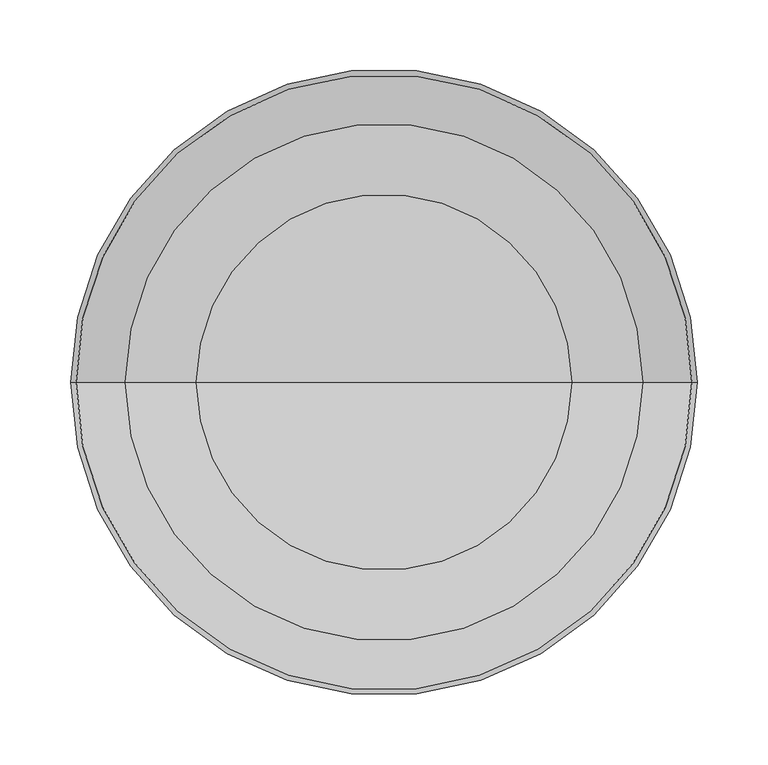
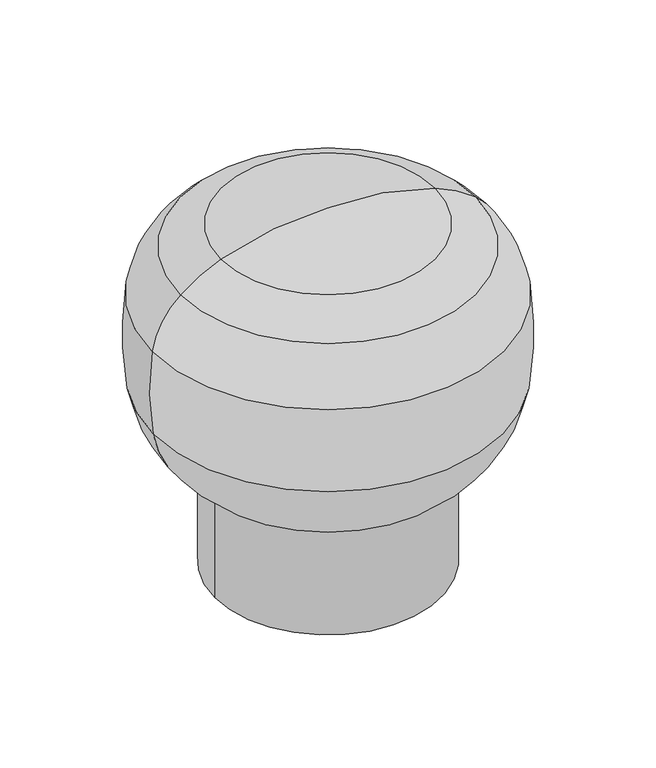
"""IFC4 building model written with IfcOpenShell, lengths in millimetres: furniture geometry, Norr11 - Champagne - Pouf : Norr11 - Champagne - Pouf."""

from ifc_helpers import new_model, si_unit, point, frame, origin, origin_with_axes, origin_2d, place, context, project, spatial, circle_curve, ellipse_curve, trimmed, segment, composite_curve, outline, extrude, source, transform, mapped, element, save
from ifc_brep_helpers import plane_surface, revolved_surface, advanced_brep


def furniture_cb224049(model_context):
    return source(origin(), model_context, "Body", "SolidModel", [
        extrude(outline(composite_curve([segment(trimmed(circle_curve(origin_2d(), 140.0), [point((-140.0, 0.0))], [point((140.0, 0.0))], False, "CARTESIAN"), True, "CONTINUOUS"), segment(trimmed(circle_curve(origin_2d(), 140.0), [point((140.0, 0.0))], [point((-140.0, 0.0))], False, "CARTESIAN"), True, "CONTINUOUS")], self_intersect=False)), origin_with_axes(), (0.0, 0.0, 1.0), 135.6519834),
        advanced_brep(
        [(0.0, 0.0, 135.6519834), (-140.0, 0.0, 135.6519834), (140.0, 0.0, 135.6519834), (182.6341988, 0.0, 411.1488121), (-182.6341988, 0.0, 411.1488121), (-132.8723887, 0.0, 439.8769029), (132.8723887, 0.0, 439.8769029), (217.5598947, 0.0, 349.1043405), (-217.5598947, 0.0, 349.1043405), (216.4120828, 0.0, 240.8241926), (-216.4120828, 0.0, 240.8241926), (0.0, 0.0, 460.6519834)],
        [
            (0, 1),
            (1, 2, circle_curve(frame((0.0, 0.0, 135.6519834), z_axis=(0.0, 0.0, -1.0), x_axis=(-1.0, 0.0, 0.0)), 140.0)),
            (2, 0),
            (2, 1, circle_curve(frame((0.0, 0.0, 135.6519834), z_axis=(0.0, 0.0, -1.0), x_axis=(-1.0, 0.0, 0.0)), 140.0)),
            (3, 4, circle_curve(frame((0.0, 0.0, 411.1488121), z_axis=(0.0, 0.0, 1.0), x_axis=(-1.0, 0.0, 0.0)), 182.6341988)),
            (4, 5, circle_curve(frame((-73.8986049, 0.0, 280.2626518), z_axis=(0.0, 1.0, 0.0), x_axis=(1.0, 0.0, 0.0)), 170.1605605)),
            (5, 6, circle_curve(frame((0.0, 0.0, 439.8769029), z_axis=(0.0, 0.0, -1.0), x_axis=(-1.0, 0.0, 0.0)), 132.8723887)),
            (6, 3, circle_curve(frame((73.8986049, 0.0, 280.2626518), z_axis=(0.0, 1.0, 0.0), x_axis=(-1.0, 0.0, 0.0)), 170.1605605)),
            (4, 3, circle_curve(frame((0.0, 0.0, 411.1488121), z_axis=(0.0, 0.0, 1.0), x_axis=(-1.0, 0.0, 0.0)), 182.6341988)),
            (6, 5, circle_curve(frame((0.0, 0.0, 439.8769029), z_axis=(0.0, 0.0, -1.0), x_axis=(-1.0, 0.0, 0.0)), 132.8723887)),
            (7, 8, circle_curve(frame((0.0, 0.0, 349.1043405), z_axis=(0.0, 0.0, 1.0), x_axis=(-1.0, 0.0, 0.0)), 217.5598947)),
            (8, 4, circle_curve(frame((-118.8817921, 0.0, 334.40938), z_axis=(0.0, 1.0, 0.0), x_axis=(1.0, 0.0, 0.0)), 99.7662758)),
            (3, 7, circle_curve(frame((118.8817921, 0.0, 334.40938), z_axis=(0.0, 1.0, 0.0), x_axis=(-1.0, 0.0, 0.0)), 99.7662758)),
            (8, 7, circle_curve(frame((0.0, 0.0, 349.1043405), z_axis=(0.0, 0.0, 1.0), x_axis=(-1.0, 0.0, 0.0)), 217.5598947)),
            (9, 10, circle_curve(frame((0.0, 0.0, 240.8241926), z_axis=(0.0, 0.0, 1.0), x_axis=(-1.0, 0.0, 0.0)), 216.4120828)),
            (10, 8, circle_curve(frame((121.8749896, 0.0, 298.5563255), z_axis=(0.0, 1.0, 0.0), x_axis=(1.0, 0.0, 0.0)), 343.1780042)),
            (7, 9, circle_curve(frame((-121.8749896, 0.0, 298.5563255), z_axis=(0.0, 1.0, 0.0), x_axis=(-1.0, 0.0, 0.0)), 343.1780042)),
            (10, 9, circle_curve(frame((0.0, 0.0, 240.8241926), z_axis=(0.0, 0.0, 1.0), x_axis=(-1.0, 0.0, 0.0)), 216.4120828)),
            (1, 10, circle_curve(frame((-71.8771486, 0.0, 265.4905506), z_axis=(0.0, 1.0, 0.0), x_axis=(1.0, 0.0, 0.0)), 146.6246106)),
            (9, 2, circle_curve(frame((71.8771486, 0.0, 265.4905506), z_axis=(0.0, 1.0, 0.0), x_axis=(-1.0, 0.0, 0.0)), 146.6246106)),
            (5, 11, circle_curve(frame((-14.8809743, 0.0, 120.5297277), z_axis=(0.0, 1.0, 0.0), x_axis=(1.0, 0.0, 0.0)), 340.447635)),
            (11, 6, circle_curve(frame((14.8809743, 0.0, 120.5297277), z_axis=(0.0, 1.0, 0.0), x_axis=(-1.0, 0.0, 0.0)), 340.447635)),
        ],
        [
            plane_surface(frame((0.0, 0.0, 135.6519834), z_axis=(0.0, 0.0, -1.0), x_axis=(-1.0, 0.0, 0.0))),
            revolved_surface(trimmed(ellipse_curve(frame((-73.8986049, 0.0, 280.2626518), z_axis=(0.0, -1.0, 0.0), x_axis=(1.0, 0.0, 0.0)), 170.1605605, 170.1605605), [point((-132.8723887, 0.0, 439.8769029))], [point((-182.6341988, 0.0, 411.1488121))], True, "CARTESIAN"), (0.0, 0.0, 465.6519834), (0.0, 0.0, -1.0)),
            revolved_surface(trimmed(ellipse_curve(frame((-118.8817921, 0.0, 334.40938), z_axis=(0.0, -1.0, 0.0), x_axis=(1.0, 0.0, 0.0)), 99.7662758, 99.7662758), [point((-182.6341988, 0.0, 411.1488121))], [point((-217.5598947, 0.0, 349.1043405))], True, "CARTESIAN"), (0.0, 0.0, 465.6519834), (0.0, 0.0, -1.0)),
            revolved_surface(trimmed(ellipse_curve(frame((121.8749896, 0.0, 298.5563255), z_axis=(0.0, -1.0, 0.0), x_axis=(1.0, 0.0, 0.0)), 343.1780042, 343.1780042), [point((-217.5598947, 0.0, 349.1043405))], [point((-216.4120828, 0.0, 240.8241926))], True, "CARTESIAN"), (0.0, 0.0, 465.6519834), (0.0, 0.0, -1.0)),
            revolved_surface(trimmed(ellipse_curve(frame((-71.8771486, 0.0, 265.4905506), z_axis=(0.0, -1.0, 0.0), x_axis=(1.0, 0.0, 0.0)), 146.6246106, 146.6246106), [point((-216.4120828, 0.0, 240.8241926))], [point((-140.0, 0.0, 135.6519834))], True, "CARTESIAN"), (0.0, 0.0, 465.6519834), (0.0, 0.0, -1.0)),
            revolved_surface(trimmed(ellipse_curve(frame((-14.8809743, 0.0, 120.5297277), z_axis=(0.0, -1.0, 0.0), x_axis=(1.0, 0.0, 0.0)), 340.447635, 340.447635), [point((0.0, 0.0, 460.6519834))], [point((-132.8723887, 0.0, 439.8769029))], True, "CARTESIAN"), (0.0, 0.0, 465.6519834), (0.0, 0.0, -1.0)),
        ],
        [
            (0, [[1, 2, 3]]),
            (0, [[-3, 4, -1]]),
            (1, [[5, 6, 7, 8]]),
            (1, [[9, -8, 10, -6]]),
            (2, [[11, 12, -5, 13]]),
            (2, [[14, -13, -9, -12]]),
            (3, [[15, 16, -11, 17]]),
            (3, [[18, -17, -14, -16]]),
            (4, [[-2, 19, -15, 20]]),
            (4, [[-4, -20, -18, -19]]),
            (5, [[-7, 21, 22]]),
            (5, [[-10, -22, -21]]),
        ],
    ),
    ])


if __name__ == "__main__":
    model = new_model("IFC4")
    model_context = context("Model", 3, world=origin())
    ifc_project = project(units=[si_unit("LENGTHUNIT", "METRE", prefix="MILLI")], contexts=[model_context])
    site = spatial("IfcSite", under=ifc_project)
    building = spatial("IfcBuilding", under=site)
    placement = place(None, origin())
    furniture_shape = furniture_cb224049(model_context)
    element("IfcFurniture", 1, ObjectType="Norr11 - Champagne - Pouf : Norr11 - Champagne - Pouf", at=placement, inside=building, context=model_context, shape_type="MappedRepresentation", body=[
        mapped(furniture_shape, transform((0.0, 0.0, 0.0), x_axis=(1.0, 0.0, 0.0), y_axis=(0.0, 1.0, 0.0), z_axis=(0.0, 0.0, 1.0))),
    ])
    save(model, "model.ifc")
